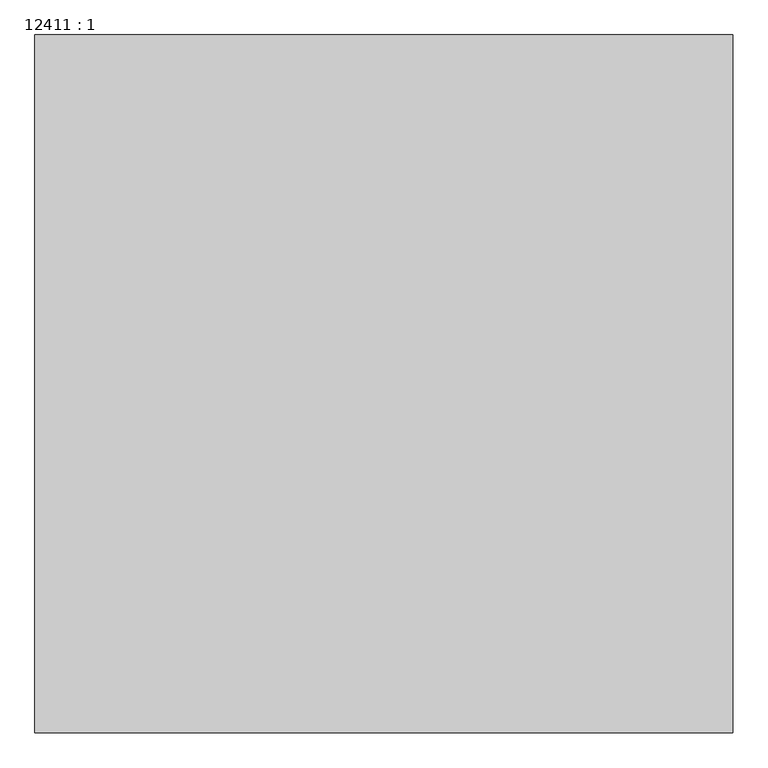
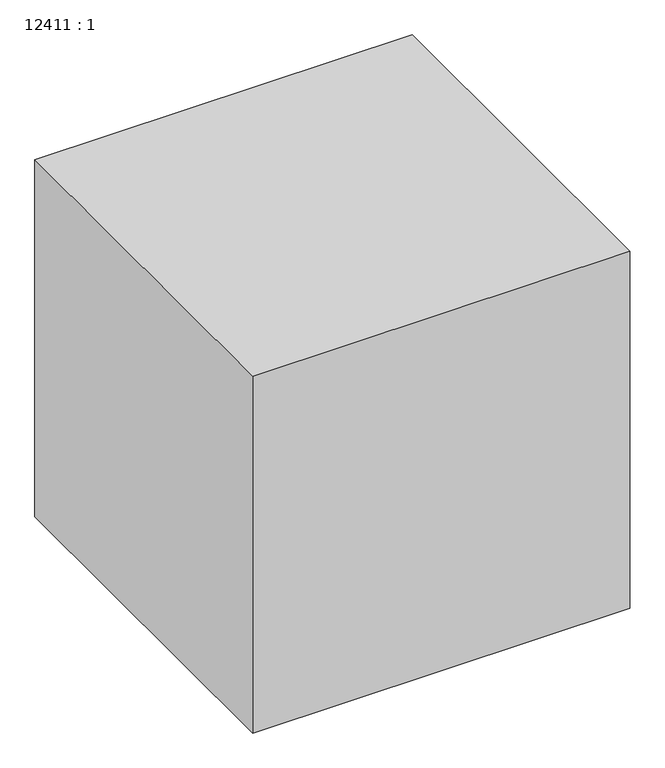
"""IFC4 building model written with IfcOpenShell, lengths in millimetres: proxy geometry, 12411 : 1."""

import ifcopenshell
import ifcopenshell.guid

model = None  # the IFC model being written
_history = None  # IfcOwnerHistory: only IFC2X3 demands one
_inside = {}  # id of a spatial element -> (the spatial element, [elements in it])
_under = {}  # id of a project, library or spatial element -> (it, [spatial elements below it])
_declared = {}  # id of a project -> (the project, [libraries it declares])
_typed = {}  # id of a type object -> (the type object, [elements of that type])
_made_of = {}  # id of a material, layer set ... -> (it, [elements and type objects made of it])


def new_model(schema):
    """Start an empty IFC model of exactly this schema.

    Asked for "IFC4X3", IfcOpenShell would pick the latest addendum, in which some entities
    have other attributes; the version numbers below select the first issue.
    IFC2X3 requires an IfcOwnerHistory on every rooted entity: one is made here for all.
    """
    global model, _history
    if schema == "IFC4X3":
        model = ifcopenshell.file(schema_version=(4, 3, 0, 0))
    else:
        model = ifcopenshell.file(schema=schema)
    _inside.clear()
    _under.clear()
    _declared.clear()
    _typed.clear()
    _made_of.clear()
    _history = None
    if model.schema == "IFC2X3":
        org = make("IfcOrganization", Name="unknown")
        user = make(
            "IfcPersonAndOrganization",
            ThePerson=make("IfcPerson", FamilyName="unknown"),
            TheOrganization=org,
        )
        app = make(
            "IfcApplication",
            ApplicationDeveloper=org,
            Version="unknown",
            ApplicationFullName="unknown",
            ApplicationIdentifier="unknown",
        )
        _history = make(
            "IfcOwnerHistory",
            OwningUser=user,
            OwningApplication=app,
            ChangeAction="ADDED",
            CreationDate=0,
        )
    return model


def make(cls, **values):
    """One entity of the class cls with the attributes given. An attribute that is None is left unset."""
    return model.create_entity(
        cls, **{name: value for name, value in values.items() if value is not None}
    )


def rooted(cls, **values):
    """An entity with a GlobalId (a new one), such as an element, a storey or a relation."""
    return make(cls, GlobalId=ifcopenshell.guid.new(), OwnerHistory=_history, **values)


def si_unit(unit_type, name, prefix=None):
    """IfcSIUnit, for example si_unit("LENGTHUNIT", "METRE", prefix="MILLI")."""
    return make("IfcSIUnit", UnitType=unit_type, Prefix=prefix, Name=name)


def assignment(units):
    """IfcUnitAssignment: the units of a project."""
    return None if units is None else make("IfcUnitAssignment", Units=units)


def point(xyz):
    """IfcCartesianPoint."""
    return None if xyz is None else make("IfcCartesianPoint", Coordinates=xyz)


def direction(xyz):
    """IfcDirection."""
    return None if xyz is None else make("IfcDirection", DirectionRatios=xyz)


def frame(location, z_axis=None, x_axis=None):
    """IfcAxis2Placement3D, a coordinate frame: its origin and axes. An axis left out is left unset."""
    return make(
        "IfcAxis2Placement3D",
        Location=point(location),
        Axis=direction(z_axis),
        RefDirection=direction(x_axis),
    )


def origin():
    """The frame at (0, 0, 0) with its axes left unset."""
    return frame((0.0, 0.0, 0.0))


def origin_with_axes():
    """The frame at (0, 0, 0) with the z axis (0, 0, 1) and the x axis (1, 0, 0) written out."""
    return frame((0.0, 0.0, 0.0), z_axis=(0.0, 0.0, 1.0), x_axis=(1.0, 0.0, 0.0))


def place(relative_to, where):
    """IfcLocalPlacement: puts the frame where relative to a parent placement (None: the world)."""
    return make(
        "IfcLocalPlacement", PlacementRelTo=relative_to, RelativePlacement=where
    )


def context(
    kind, dimensions, precision=None, world=None, true_north=None, identifier=None
):
    """IfcGeometricRepresentationContext, for example the 3D "Model" context."""
    return make(
        "IfcGeometricRepresentationContext",
        ContextIdentifier=identifier,
        ContextType=kind,
        CoordinateSpaceDimension=dimensions,
        Precision=precision,
        WorldCoordinateSystem=world,
        TrueNorth=true_north,
    )


def project(units=None, contexts=None):
    """IfcProject with its units and contexts."""
    return rooted(
        "IfcProject",
        Name="project",
        RepresentationContexts=contexts,
        UnitsInContext=assignment(units),
    )


def spatial(cls, under=None, at=None, **own):
    """A site, building, storey or space (cls), placed at a placement, below another one or the project."""
    s = rooted(cls, ObjectPlacement=at, **own)
    if under is not None:
        _under.setdefault(under.id(), (under, []))[1].append(s)
    return s


def polyline(points):
    """IfcPolyline through the points."""
    return make("IfcPolyline", Points=[point(p) for p in points])


def outline(outer, holes=None, kind="AREA"):
    """IfcArbitraryClosedProfileDef: a profile drawn as a closed curve; with holes, ...WithVoids."""
    if holes is None:
        return make("IfcArbitraryClosedProfileDef", ProfileType=kind, OuterCurve=outer)
    return make(
        "IfcArbitraryProfileDefWithVoids",
        ProfileType=kind,
        OuterCurve=outer,
        InnerCurves=holes,
    )


def extrude(swept, where, along, depth):
    """IfcExtrudedAreaSolid: the profile swept, set in the frame where, extruded along a direction by depth."""
    return make(
        "IfcExtrudedAreaSolid",
        SweptArea=swept,
        Position=where,
        ExtrudedDirection=direction(along),
        Depth=depth,
    )


def shape(context_of_items, identifier, shape_type, items):
    """IfcShapeRepresentation: the items that make up one representation, for example the "Body"."""
    return make(
        "IfcShapeRepresentation",
        ContextOfItems=context_of_items,
        RepresentationIdentifier=identifier,
        RepresentationType=shape_type,
        Items=items,
    )


def source(mapping_origin, context_of_items, identifier, shape_type, items):
    """IfcRepresentationMap: a shape defined once, which mapped items show again and again."""
    return make(
        "IfcRepresentationMap",
        MappingOrigin=mapping_origin,
        MappedRepresentation=shape(context_of_items, identifier, shape_type, items),
    )


def transform(
    local_origin,
    x_axis=None,
    y_axis=None,
    z_axis=None,
    scale=None,
    scale2=None,
    scale3=None,
    uniform=True,
):
    """IfcCartesianTransformationOperator3D, or its non-uniform kind. x_axis, y_axis, z_axis: its Axis1, 2, 3."""
    if uniform:
        return make(
            "IfcCartesianTransformationOperator3D",
            Axis1=direction(x_axis),
            Axis2=direction(y_axis),
            LocalOrigin=point(local_origin),
            Scale=scale,
            Axis3=direction(z_axis),
        )
    return make(
        "IfcCartesianTransformationOperator3DnonUniform",
        Axis1=direction(x_axis),
        Axis2=direction(y_axis),
        LocalOrigin=point(local_origin),
        Scale=scale,
        Axis3=direction(z_axis),
        Scale2=scale2,
        Scale3=scale3,
    )


def mapped(mapping_source, mapping_target):
    """IfcMappedItem: shows the shape of a source again, moved by a transform."""
    return make(
        "IfcMappedItem", MappingSource=mapping_source, MappingTarget=mapping_target
    )


def made_of(thing, what):
    """Note that an element or type object is made of a material, layer set ...; save() writes the relation."""
    if what is not None:
        _made_of.setdefault(what.id(), (what, []))[1].append(thing)
    return thing


def element(
    cls,
    number,
    at=None,
    inside=None,
    cuts=None,
    type_object=None,
    material=None,
    context=None,
    identifier="Body",
    shape_type=None,
    held_by="IfcProductDefinitionShape",
    body=None,
    shapes=None,
    **own,
):
    """One element of the class cls, such as IfcWall. Its Tag is "e" and its number.

    at: its placement. inside: the storey or other place that contains it. cuts: it is an
    opening in that element (IfcRelVoidsElement). A single representation is given by context,
    identifier, shape_type and body (its items); several are given by shapes. held_by: the class
    of the entity that holds the representations. save() writes the other relations.
    """
    e = rooted(cls, Tag="e%d" % number, ObjectPlacement=at, **own)
    if body is not None:
        shapes = [shape(context, identifier, shape_type, body)]
    if shapes is not None:
        e.Representation = make(held_by, Representations=shapes)
    if inside is not None:
        _inside.setdefault(inside.id(), (inside, []))[1].append(e)
    if cuts is not None:
        rooted(
            "IfcRelVoidsElement", RelatingBuildingElement=cuts, RelatedOpeningElement=e
        )
    if type_object is not None:
        _typed.setdefault(type_object.id(), (type_object, []))[1].append(e)
    return made_of(e, material)


def aggregate(whole, parts):
    """IfcRelAggregates: a whole, such as a stair, and the parts it consists of."""
    return rooted("IfcRelAggregates", RelatingObject=whole, RelatedObjects=parts)


def save(model, path):
    """Write the relations noted so far, then the file.

    IfcRelAggregates (storeys below a building ...), IfcRelContainedInSpatialStructure (elements
    in a storey), IfcRelDefinesByType, IfcRelAssociatesMaterial and IfcRelDeclares: one each for
    every whole, place, type object, material and project.
    """
    for whole, parts in _under.values():
        aggregate(whole, parts)
    for where, things in _inside.values():
        rooted(
            "IfcRelContainedInSpatialStructure",
            RelatedElements=things,
            RelatingStructure=where,
        )
    for kind, things in _typed.values():
        rooted("IfcRelDefinesByType", RelatedObjects=things, RelatingType=kind)
    for what, things in _made_of.values():
        rooted("IfcRelAssociatesMaterial", RelatedObjects=things, RelatingMaterial=what)
    for by, libraries in _declared.values():
        rooted("IfcRelDeclares", RelatingContext=by, RelatedDefinitions=libraries)
    model.write(path)


def proxy_12411_1_0cb6ce3b(model_context):
    return source(origin(), model_context, "Body", "SweptSolid", [
        extrude(outline(polyline([(27692.0243292, -664.7705528), (27692.0243292, -1664.7705528), (26692.0243292, -1664.7705528), (26692.0243292, -664.7705528), (27692.0243292, -664.7705528)])), origin_with_axes(), (0.0, 0.0, 1.0), 1000.0),
    ])


if __name__ == "__main__":
    model = new_model("IFC4")
    model_context = context("Model", 3, world=origin())
    ifc_project = project(units=[si_unit("LENGTHUNIT", "METRE", prefix="MILLI")], contexts=[model_context])
    site = spatial("IfcSite", under=ifc_project)
    building = spatial("IfcBuilding", under=site)
    placement = place(None, origin())
    proxy_12411_1_shape = proxy_12411_1_0cb6ce3b(model_context)
    element("IfcBuildingElementProxy", 1, Name="12411 : 1", ObjectType="12411 : 1", at=placement, inside=building, context=model_context, shape_type="MappedRepresentation", body=[
        mapped(proxy_12411_1_shape, transform((0.0, 0.0, 0.0), x_axis=(1.0, 0.0, 0.0), y_axis=(0.0, 1.0, 0.0), z_axis=(0.0, 0.0, 1.0))),
    ])
    save(model, "model.ifc")
